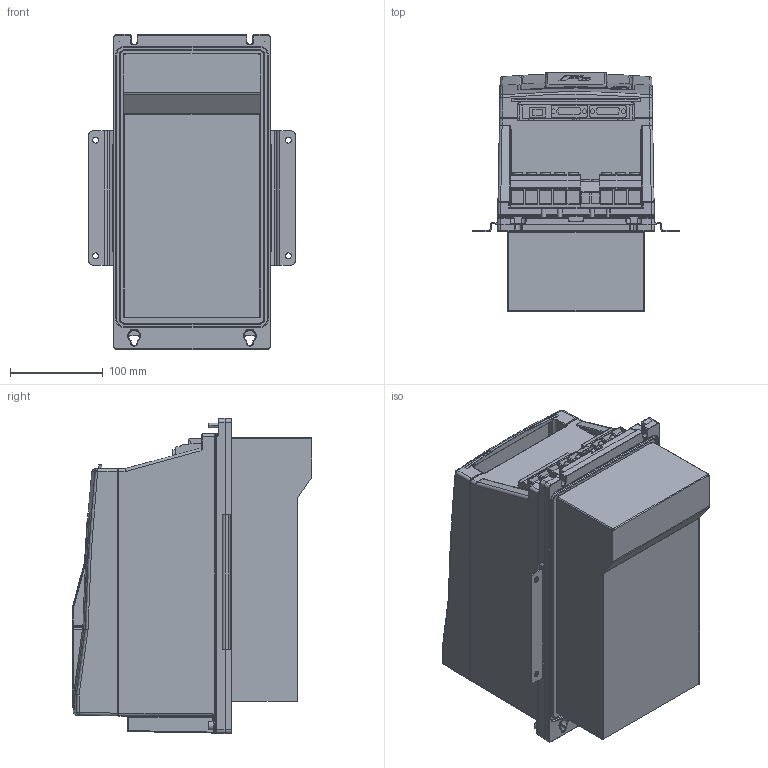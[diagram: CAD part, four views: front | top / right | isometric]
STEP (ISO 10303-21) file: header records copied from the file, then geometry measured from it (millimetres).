
FILE_DESCRIPTION (( 'STEP AP214' ), '1' );
FILE_NAME ('Housing F6-3 TR5-A030.STEP', '2020-11-13T13:22:53', ( '' ), ( '' ), 'SwSTEP 2.0', 'SolidWorks 2019', '' );
FILE_SCHEMA (( 'AUTOMOTIVE_DESIGN' ));
Length unit declared in the file: millimetre
Products named in the file (9): 10059763_000; 10035736_000_Kundenmodell; 10060358_000; 10059765_000; Housing F6-3 TR5-A030; 10059764_000_Blindabdeckung (Kundenmodell); 10051470_000_Leistungsteil TR5 (Kundenmodell); 10040482_000_Kundenmodell; 10060393_000
Assembly tree (8 placements, depth 4):
  Housing F6-3 TR5-A030
    10051470_000_Leistungsteil TR5 (Kundenmodell)
      10060358_000
    10040482_000_Kundenmodell
      10060393_000
    10035736_000_Kundenmodell
      10059764_000_Blindabdeckung (Kundenmodell)
        10059765_000
      10059763_000
Bounding box: 223 x 258.4 x 340 mm (x, y, z)
Volume: 10542723.3 mm3; surface area: 630890.7 mm2
Topology: 11 solids, 14 shells, 2071 faces, 5204 edges, 3184 vertices
Faces by surface type: plane 885, cylinder 616, bspline 323, torus 114, cone 83, sphere 50
Entity records: 69300 total; most frequent: CARTESIAN_POINT 21978, ORIENTED_EDGE 10280, DIRECTION 9047, EDGE_CURVE 5140, VERTEX_POINT 3184, AXIS2_PLACEMENT_3D 3118, VECTOR 2811, LINE 2811
